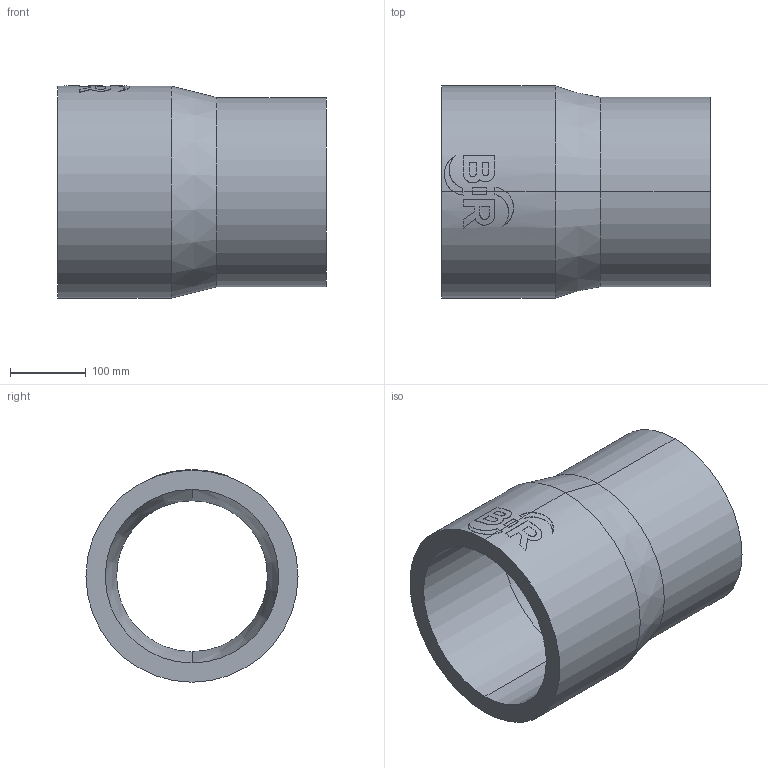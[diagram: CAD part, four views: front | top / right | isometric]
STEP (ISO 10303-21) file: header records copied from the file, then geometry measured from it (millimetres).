
FILE_DESCRIPTION (( 'STEP AP214' ), '1' );
FILE_NAME ('2323222115.STEP', '2018-07-20T11:58:46', ( '' ), ( '' ), 'SwSTEP 2.0', 'SolidWorks 2017', '' );
FILE_SCHEMA (( 'AUTOMOTIVE_DESIGN' ));
Length unit declared in the file: millimetre
Products named in the file (1): 2323222115
Bounding box: 355 x 280 x 280.46 mm (x, y, z)
Volume: 6826329.3 mm3; surface area: 576011.2 mm2
Topology: 1 solids, 1 shells, 63 faces, 160 edges, 104 vertices
Faces by surface type: cylinder 31, plane 28, cone 4
Entity records: 3383 total; most frequent: CARTESIAN_POINT 1174, ORIENTED_EDGE 320, DIRECTION 296, EDGE_CURVE 160, AXIS2_PLACEMENT_3D 112, VERTEX_POINT 104, VECTOR 72, LINE 72
